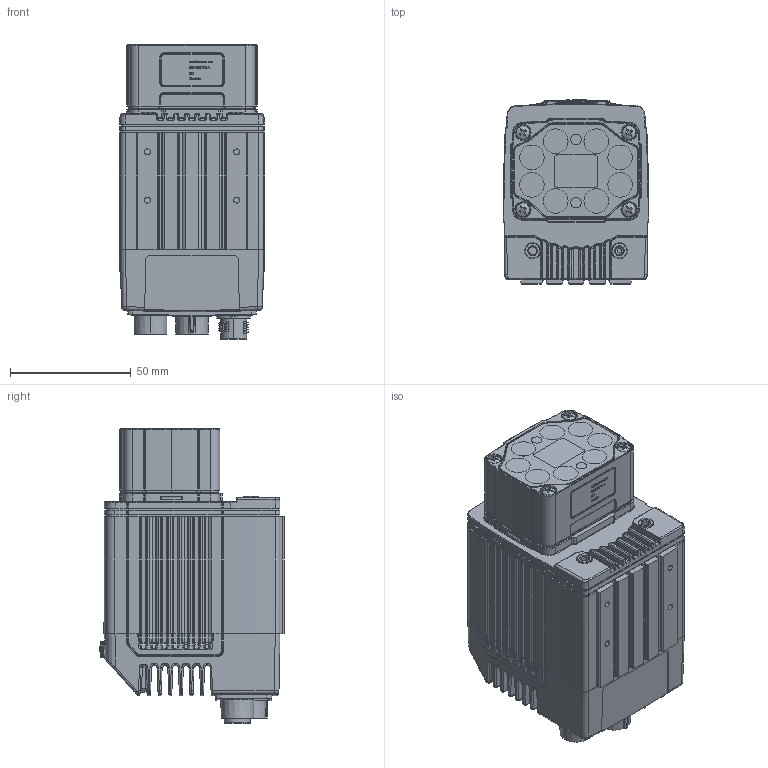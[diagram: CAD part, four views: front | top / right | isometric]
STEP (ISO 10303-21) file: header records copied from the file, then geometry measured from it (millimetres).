
FILE_DESCRIPTION (( 'STEP AP203' ), '1' );
FILE_NAME ('Empty DM470 +HPIL-V3.STEP', '2018-02-14T15:18:55', ( '' ), ( '' ), 'SwSTEP 2.0', 'SolidWorks 2017', '' );
FILE_SCHEMA (( 'CONFIG_CONTROL_DESIGN' ));
Length unit declared in the file: millimetre
Products named in the file (1): Empty DM470 +HPIL-V3
Bounding box: 60.5 x 76.36 x 122.03 mm (x, y, z)
Volume: 395230.7 mm3; surface area: 50786.7 mm2
Topology: 1 solids, 1 shells, 3524 faces, 9357 edges, 6019 vertices
Faces by surface type: bspline 1104, plane 1067, cylinder 915, cone 223, torus 155, sphere 60
Entity records: 164384 total; most frequent: CARTESIAN_POINT 86027, ORIENTED_EDGE 18630, DIRECTION 13528, EDGE_CURVE 9315, VERTEX_POINT 6019, AXIS2_PLACEMENT_3D 5167, EDGE_LOOP 3758, FACE_OUTER_BOUND 3524
